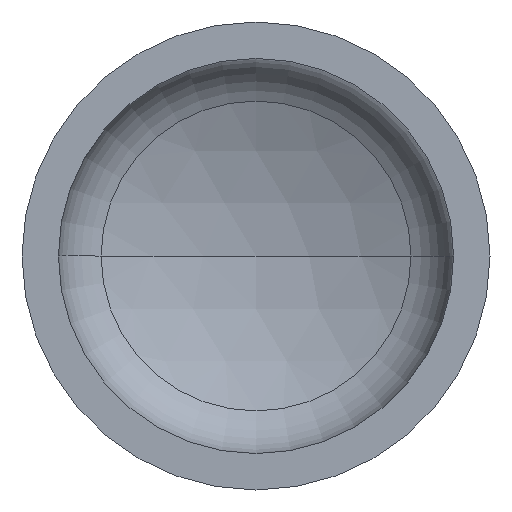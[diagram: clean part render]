
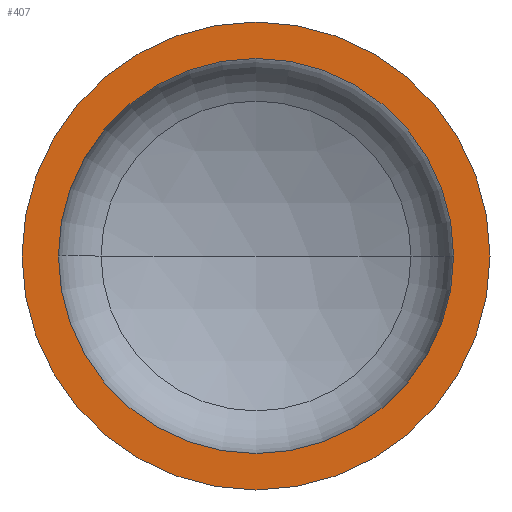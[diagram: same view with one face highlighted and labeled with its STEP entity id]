
A CAD part, front view. The second image highlights one B-rep face of the part: STEP entity #407.
In plain terms, the highlighted planar face has unit normal (0, -1, 0).
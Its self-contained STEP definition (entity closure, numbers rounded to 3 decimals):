
#8 = VERTEX_POINT ( 'NONE', #259 ) ;
#22 = AXIS2_PLACEMENT_3D ( 'NONE', #360, #205, #338 ) ;
#47 = CIRCLE ( 'NONE', #409, 450. ) ;
#69 = AXIS2_PLACEMENT_3D ( 'NONE', #322, #321, #320 ) ;
#70 = ORIENTED_EDGE ( 'NONE', *, *, #375, .T. ) ;
#72 = ORIENTED_EDGE ( 'NONE', *, *, #342, .F. ) ;
#73 = AXIS2_PLACEMENT_3D ( 'NONE', #339, #330, #325 ) ;
#84 = EDGE_CURVE ( 'NONE', #151, #8, #148, .T. ) ;
#88 = EDGE_CURVE ( 'NONE', #149, #143, #300, .T. ) ;
#98 = EDGE_LOOP ( 'NONE', ( #250, #72 ) ) ;
#133 = DIRECTION ( 'NONE',  ( 0., -1., 0. ) ) ;
#138 = FACE_OUTER_BOUND ( 'NONE', #175, .T. ) ;
#143 = VERTEX_POINT ( 'NONE', #195 ) ;
#148 = CIRCLE ( 'NONE', #73, 450. ) ;
#149 = VERTEX_POINT ( 'NONE', #223 ) ;
#151 = VERTEX_POINT ( 'NONE', #217 ) ;
#175 = EDGE_LOOP ( 'NONE', ( #70, #197 ) ) ;
#195 = CARTESIAN_POINT ( 'NONE',  ( -380., 0., 0. ) ) ;
#197 = ORIENTED_EDGE ( 'NONE', *, *, #84, .T. ) ;
#199 = CIRCLE ( 'NONE', #22, 380. ) ;
#205 = DIRECTION ( 'NONE',  ( 0., -1., 0. ) ) ;
#217 = CARTESIAN_POINT ( 'NONE',  ( -450., 0., 0. ) ) ;
#223 = CARTESIAN_POINT ( 'NONE',  ( 380., 0., 0. ) ) ;
#238 = DIRECTION ( 'NONE',  ( -1., 0., 0. ) ) ;
#240 = AXIS2_PLACEMENT_3D ( 'NONE', #308, #386, #238 ) ;
#250 = ORIENTED_EDGE ( 'NONE', *, *, #88, .F. ) ;
#259 = CARTESIAN_POINT ( 'NONE',  ( 450., 0., 0. ) ) ;
#265 = PLANE ( 'NONE',  #240 ) ;
#300 = CIRCLE ( 'NONE', #69, 380. ) ;
#308 = CARTESIAN_POINT ( 'NONE',  ( -450., 0., 0. ) ) ;
#310 = FACE_BOUND ( 'NONE', #98, .T. ) ;
#320 = DIRECTION ( 'NONE',  ( 1., 0., 0. ) ) ;
#321 = DIRECTION ( 'NONE',  ( 0., -1., 0. ) ) ;
#322 = CARTESIAN_POINT ( 'NONE',  ( 0., 0., 0. ) ) ;
#325 = DIRECTION ( 'NONE',  ( 1., 0., 0. ) ) ;
#330 = DIRECTION ( 'NONE',  ( 0., -1., 0. ) ) ;
#336 = DIRECTION ( 'NONE',  ( 1., 0., 0. ) ) ;
#338 = DIRECTION ( 'NONE',  ( 1., 0., 0. ) ) ;
#339 = CARTESIAN_POINT ( 'NONE',  ( 0., 0., 0. ) ) ;
#342 = EDGE_CURVE ( 'NONE', #143, #149, #199, .T. ) ;
#360 = CARTESIAN_POINT ( 'NONE',  ( 0., 0., 0. ) ) ;
#366 = CARTESIAN_POINT ( 'NONE',  ( 0., 0., 0. ) ) ;
#375 = EDGE_CURVE ( 'NONE', #8, #151, #47, .T. ) ;
#386 = DIRECTION ( 'NONE',  ( 0., 1., 0. ) ) ;
#407 = ADVANCED_FACE ( 'NONE', ( #310, #138 ), #265, .F. ) ;
#409 = AXIS2_PLACEMENT_3D ( 'NONE', #366, #133, #336 ) ;
